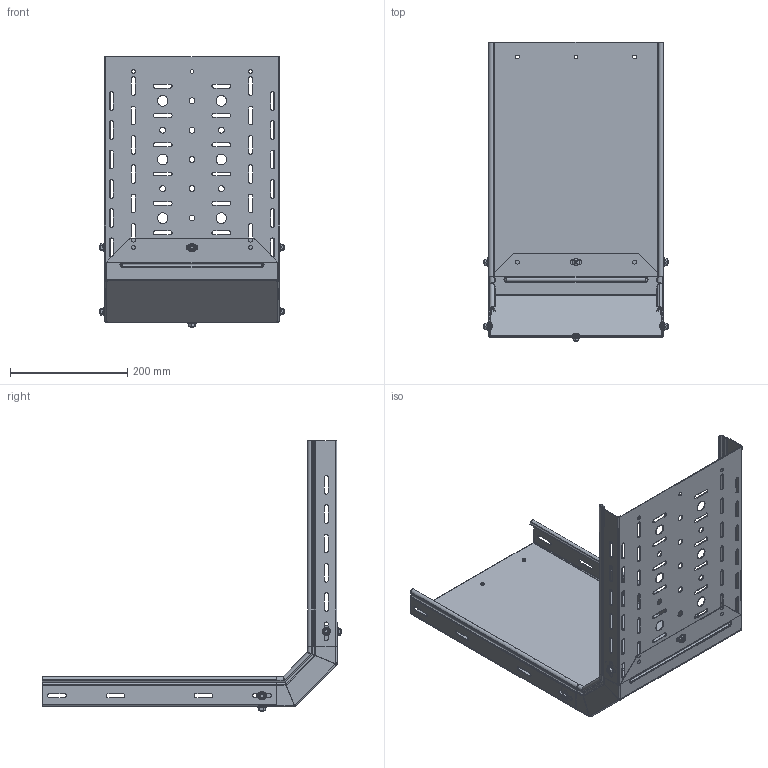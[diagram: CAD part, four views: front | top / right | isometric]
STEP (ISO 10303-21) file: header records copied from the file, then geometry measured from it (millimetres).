
FILE_DESCRIPTION (( 'STEP AP214' ), '1' );
FILE_NAME ('ﾓﾑﾂﾍﾐ+ﾓﾋ(ﾍ)+ﾓﾋ(ﾏ)_50.STEP', '2016-10-06T19:39:20', ( '' ), ( '' ), 'SwSTEP 2.0', 'SolidWorks 2016', '' );
FILE_SCHEMA (( 'AUTOMOTIVE_DESIGN' ));
Length unit declared in the file: millimetre
Products named in the file (6): hex flange nut_din_Hexagon Flange Nut DIN 6923 - M6 - N; pan head cross recess screw_din_ISO 7045 - M6 x 10 - Z --- 10N; ÓË(Ï)-300õÍõ550_3000.1,5.300.50; ÓË(Í)-300õÍõ550_3000.1,5.300.50; 082535 ÓÑÂÍÐ-300õ50; ﾓﾑﾂﾍﾐ+ﾓﾋ(ﾍ)+ﾓﾋ(ﾏ)_50
Assembly tree (15 placements, depth 2):
  ﾓﾑﾂﾍﾐ+ﾓﾋ(ﾍ)+ﾓﾋ(ﾏ)_50
    082535 ÓÑÂÍÐ-300õ50
    ÓË(Í)-300õÍõ550_3000.1,5.300.50
    ÓË(Ï)-300õÍõ550_3000.1,5.300.50
    pan head cross recess screw_din_ISO 7045 - M6 x 10 - Z --- 10N  x6
    hex flange nut_din_Hexagon Flange Nut DIN 6923 - M6 - N  x6
Bounding box: 315 x 511.09 x 461.09 mm (x, y, z)
Volume: 542426.3 mm3; surface area: 793042.4 mm2
Topology: 15 solids, 15 shells, 1136 faces, 2802 edges, 1694 vertices
Faces by surface type: plane 494, cylinder 390, cone 108, bspline 80, torus 44, sphere 20
Entity records: 26638 total; most frequent: CARTESIAN_POINT 6769, ORIENTED_EDGE 4060, DIRECTION 4056, EDGE_CURVE 2030, AXIS2_PLACEMENT_3D 1464, VERTEX_POINT 1239, VECTOR 1128, LINE 1128
